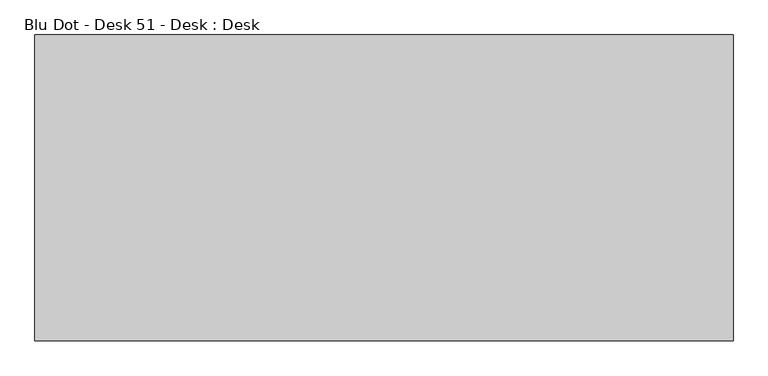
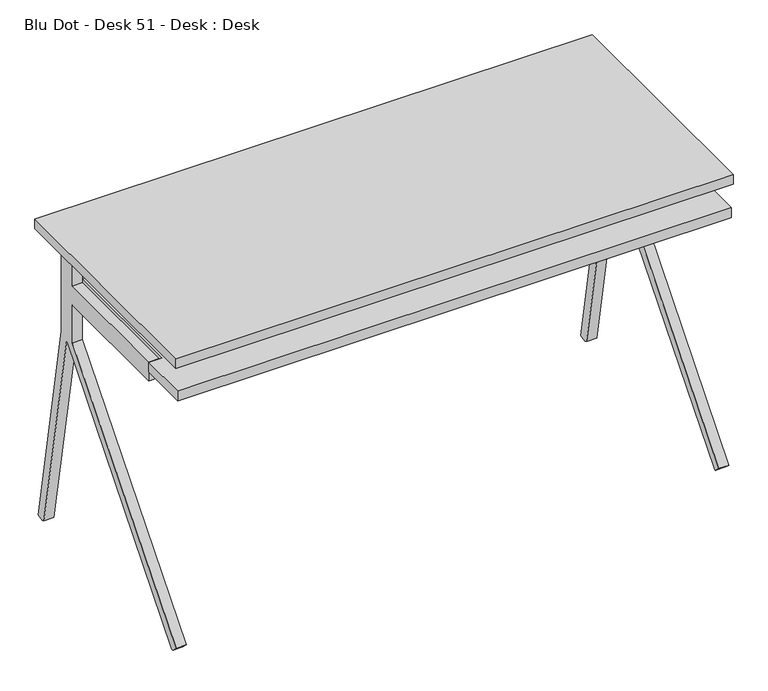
"""IFC4 building model written with IfcOpenShell, lengths in millimetres: furniture geometry, Blu Dot - Desk 51 - Desk : Desk."""

from ifc_helpers import new_model, si_unit, frame, origin, place, context, project, spatial, polyline, outline, extrude, source, transform, mapped, element, save


def blu_dot_desk_51_desk_desk_517319fa(model_context):
    return source(origin(), model_context, "Body", "SweptSolid", [
        extrude(outline(polyline([(661.7482758, 1390.6500238), (775.996933, 1390.6500238), (775.996933, 1247.4752045), (747.6942444, 1247.4752045), (747.6942444, 1187.9216766), (775.996933, 1187.9216766), (775.996933, 234.0810394), (747.6942444, 234.0810394), (747.6942444, 174.5275116), (775.996933, 174.5275116), (775.996933, 31.3526923), (661.7482758, 31.3526923), (661.7482758, 1390.6500238)])), frame((0.0, -129.5724326, 0.0), z_axis=(0.0, 1.0, 0.0), x_axis=(0.0, 0.0, 1.0)), (0.0, 0.0, 1.0), 24.8284531),
        extrude(outline(polyline([(1417.7220917, -623.1275397), (4.2806244, -623.1275397), (4.2806244, -495.6216651), (39.3667603, -495.6216651), (39.3667603, -144.221347), (1382.6359558, -144.221347), (1382.6359558, -495.6216651), (1417.7220917, -495.6216651), (1417.7220917, -623.1275397)])), frame((0.0, 0.0, 687.6889038), z_axis=(0.0, 0.0, 1.0), x_axis=(1.0, 0.0, 0.0)), (0.0, 0.0, 1.0), 26.2324524),
        extrude(outline(polyline([(-30.1070462, 3.5074988), (-130.9755571, 552.4207807), (-595.4656798, 0.0), (-599.4948836, 0.0), (-614.9768348, 14.5830092), (-155.8875686, 560.5805201), (-155.8875686, 661.8786621), (-493.2089072, 661.8786621), (-493.2089072, 713.9213562), (-155.8875686, 713.9213562), (-155.8875686, 776.1807251), (-106.0635776, 776.1807251), (-106.0635776, 560.5805461), (-5.0398055, 4.3498382), (-22.2799047, -1.7e-06), (-30.1070462, 3.5074988)])), frame((1390.6500901, 0.0, 0.0), z_axis=(1.0, 0.0, 0.0), x_axis=(0.0, 1.0, 0.0)), (0.0, 0.0, 1.0), 25.5713759),
        extrude(outline(polyline([(1422.0027161, -0.176261), (1422.0027161, -623.1275397), (0.0, -623.1275397), (0.0, -0.176261), (1422.0027161, -0.176261)])), frame((0.0, 0.0, 776.1807251), z_axis=(0.0, 0.0, 1.0), x_axis=(1.0, 0.0, 0.0)), (0.0, 0.0, 1.0), 25.4144287),
        extrude(outline(polyline([(-30.1070462, 3.5074988), (-130.9755571, 552.4207807), (-595.4656798, 0.0), (-599.4948836, 0.0), (-614.9768348, 14.5830092), (-155.8875686, 560.5805201), (-155.8875686, 661.8786621), (-493.2089072, 661.8786621), (-493.2089072, 713.9213562), (-155.8875686, 713.9213562), (-155.8875686, 776.1807251), (-106.0635776, 776.1807251), (-106.0635776, 560.5805461), (-5.0398055, 4.3498382), (-22.2799047, -1.7e-06), (-30.1070462, 3.5074988)])), frame((5.78125, 0.0, 0.0), z_axis=(1.0, 0.0, 0.0), x_axis=(0.0, 1.0, 0.0)), (0.0, 0.0, 1.0), 25.5713759),
    ])


if __name__ == "__main__":
    model = new_model("IFC4")
    model_context = context("Model", 3, world=origin())
    ifc_project = project(units=[si_unit("LENGTHUNIT", "METRE", prefix="MILLI")], contexts=[model_context])
    site = spatial("IfcSite", under=ifc_project)
    building = spatial("IfcBuilding", under=site)
    placement = place(None, origin())
    blu_dot_desk_51_desk_desk_shape = blu_dot_desk_51_desk_desk_517319fa(model_context)
    element("IfcFurniture", 1, ObjectType="Blu Dot - Desk 51 - Desk : Desk", at=placement, inside=building, context=model_context, shape_type="MappedRepresentation", body=[
        mapped(blu_dot_desk_51_desk_desk_shape, transform((0.0, 0.0, 0.0), x_axis=(1.0, 0.0, 0.0), y_axis=(0.0, 1.0, 0.0), z_axis=(0.0, 0.0, 1.0))),
    ])
    save(model, "model.ifc")
